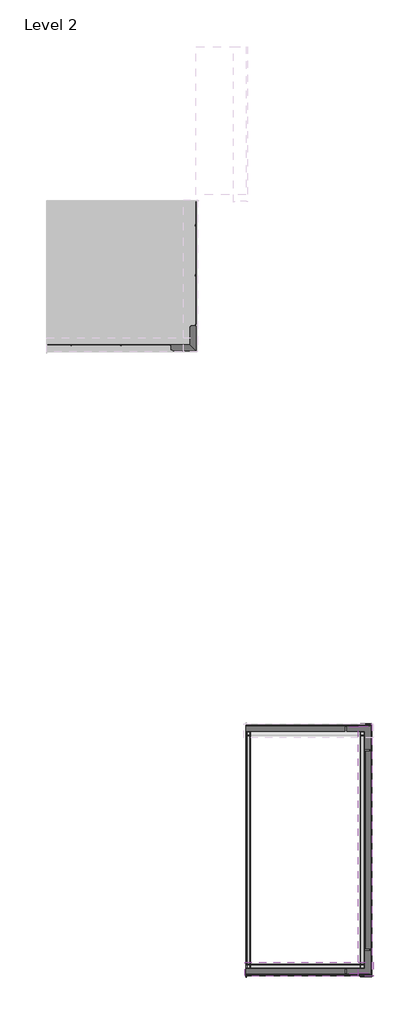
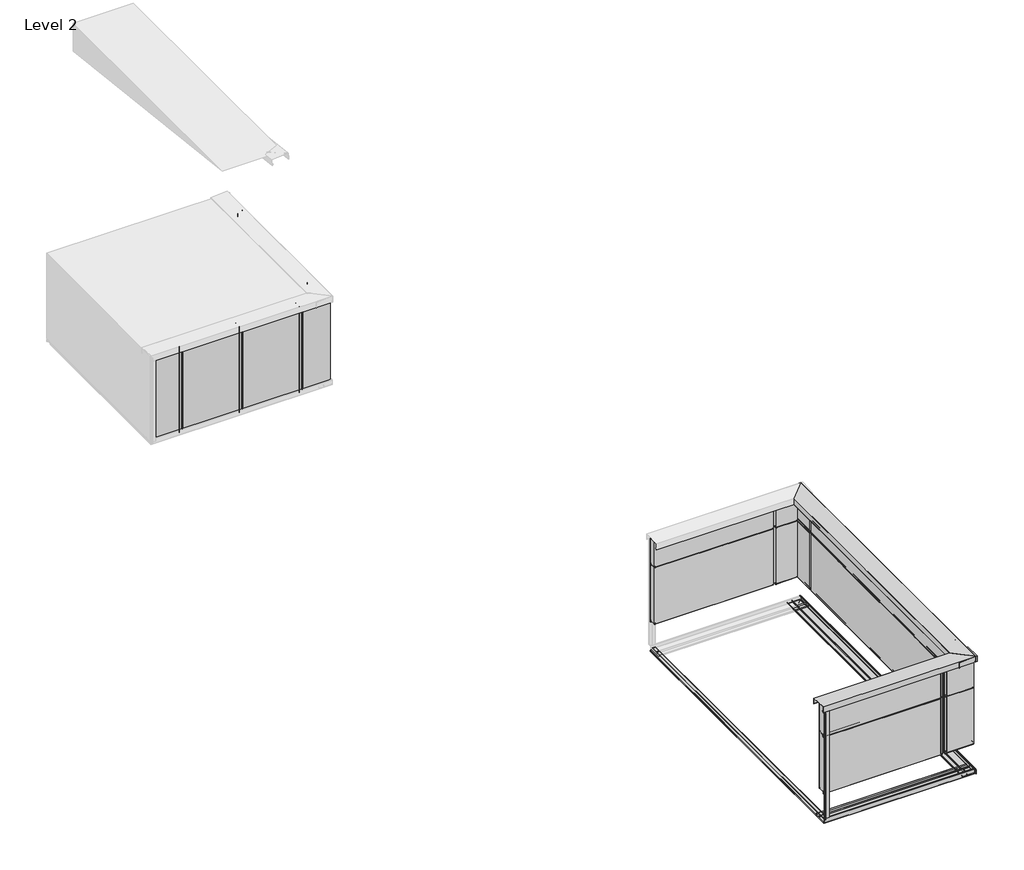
# One storey, part 1 of 2: 26 plates, 8 members, 6 beams.
"""IFC4 building model written with IfcOpenShell, lengths in millimetres."""

from ifc_helpers import new_model, si_unit, frame, origin, place, context, project, spatial, polyline, outline, extrude, faceted_brep, transform, mapped, element, save
from components import internal_corner_91954f82, rectangular_mullion_bb89daf4, rectangular_mullion_bab87d59, plate_120_ral9006_ral9002_e4264d30, plate_120_ral9006_ral9002_5a172faf, plate_120_ral9006_ral9002_df0f32c6, plate_120_ral9006_ral9002_e90abb7c, plate_120_ral9006_ral9002_9ec991b3, plate_120_ral9006_ral9002_0d9f0b08, plate_120_ral9006_ral9002_3dddc61d, plate_120_ral9006_ral9002_cf70b398, plate_120_ral9006_ral9002_8f508d1c, plate_120_ral9006_ral9002_3610f0f2, plate_120_ral9006_ral9002_c86770fb, plate_120_ral9006_ral9002_16159907, plate_120_ral9006_ral9002_e2026118, plate_120_ral9006_ral9002_229d352a, plate_120_ral9006_ral9002_b9891fc8, plate_120_ral9006_ral9002_523d2fcc, plate_120_ral9006_ral9002_a70e4969, tr_empty_empty_7661b975, tr_empty_empty_d66e5eec, tr_empty_empty_b148ba64

model = new_model("IFC4")

# Units and contexts
model_context = context("Model", 3, world=origin())
ifc_project = project(units=[si_unit("LENGTHUNIT", "METRE", prefix="MILLI")], contexts=[model_context])

# Site, building, storey
site = spatial("IfcSite", under=ifc_project)
building = spatial("IfcBuilding", under=site)
storey = spatial("IfcBuildingStorey", under=building, Name="Level 2", Elevation=4000.0)

# Beams
placement = place(None, origin())
element("IfcBeam", 1, ObjectType="TE-H-05_02_Internal corner i_BEAM : Internal corner", at=placement, inside=storey, context=model_context, shape_type="SweptSolid", body=[
    extrude(outline(polyline([(3631.5530174, -3916.9160895), (3631.3459621, -3916.1433489), (3648.3462567, -3911.5881337), (3648.0356738, -3910.4290227), (3629.4, -3915.4224364), (3629.4, -3990.5155057), (3599.4, -3990.5155057), (3599.4, -3991.7155057), (3619.0, -3991.7155057), (3619.0, -3992.5155057), (3598.6, -3992.5155057), (3598.6, -3989.7155057), (3628.6, -3989.7155057), (3628.6, -3914.8085749), (3648.6013592, -3909.4492268), (3649.3260526, -3912.1538191), (3631.5530174, -3916.9160895)])), frame((0.0, -11530.3930873, 0.0), z_axis=(0.0, 1.0, 0.0), x_axis=(0.0, 0.0, 1.0)), (0.0, 0.0, 1.0), 4999.9999988),
    extrude(outline(polyline([(3647.6, -3913.653786), (3633.6146402, -3917.4011518), (3633.407585, -3916.6284112), (3648.4, -3912.6112057), (3648.4, -3963.1324958), (3647.6, -3963.1324958), (3647.6, -3913.653786)])), frame((0.0, -11530.3930873, 0.0), z_axis=(0.0, 1.0, 0.0), x_axis=(0.0, 0.0, 1.0)), (0.0, 0.0, 1.0), 4999.9999988),
])
internal_corner_shape = internal_corner_91954f82(model_context)
element("IfcBeam", 2, ObjectType="TE-H-05_02_Internal corner i_BEAM : Internal corner", at=placement, inside=storey, context=model_context, shape_type="MappedRepresentation", body=[
    mapped(internal_corner_shape, transform((-3994.1155057, -11530.3930879, 4650.0), x_axis=(0.0, 0.0, 1.0), y_axis=(1.0, 0.0, 0.0), z_axis=(0.0, 1.0, 0.0))),
])
element("IfcBeam", 3, ObjectType="TE-H-03_02_Top parapet_BEAM : Top parapet", at=placement, inside=storey, context=model_context, shape_type="Brep", body=[
    faceted_brep([(-1442.4955403, -11535.9982611, 5592.9605122), (-1442.4955403, -11552.9930879, 5575.9656854), (-1442.4955403, -11552.9930879, 5674.5784879), (-1442.4955403, -11277.7930879, 5660.1558671), (-1442.4955403, -11277.7930879, 5561.5011383), (-1442.4955403, -11294.7879147, 5578.4959652), (-1442.4955403, -11295.3536001, 5577.9302797), (-1442.4955403, -11276.9930879, 5559.5697675), (-1442.4955403, -11276.9930879, 5660.9150387), (-1442.4955403, -11553.7930879, 5675.4215121), (-1442.4955403, -11553.7930879, 5574.0343146), (-1442.4955403, -11535.4325756, 5592.3948268), (-4014.9155057, -11535.9982611, 5592.9605122), (-4014.9155057, -11535.4325756, 5592.3948268), (-4014.9155057, -11553.7930879, 5574.0343146), (-4014.9155057, -11553.7930879, 5675.4215121), (-4014.9155057, -11276.9930879, 5660.9150387), (-4014.9155057, -11276.9930879, 5559.5697675), (-4014.9155057, -11295.3536001, 5577.9302797), (-4014.9155057, -11294.7879147, 5578.4959652), (-4014.9155057, -11277.7930879, 5561.5011383), (-4014.9155057, -11277.7930879, 5660.1558671), (-4014.9155057, -11552.9930879, 5674.5784879), (-4014.9155057, -11552.9930879, 5575.9656854)], [[[0, 1, 2, 3, 4, 5, 6, 7, 8, 9, 10, 11]], [[12, 13, 14, 15, 16, 17, 18, 19, 20, 21, 22, 23]], [[1, 0, 12, 23]], [[2, 1, 23, 22]], [[3, 2, 22, 21]], [[4, 3, 21, 20]], [[5, 4, 20, 19]], [[6, 5, 19, 18]], [[7, 6, 18, 17]], [[8, 7, 17, 16]], [[9, 8, 16, 15]], [[10, 9, 15, 14]], [[11, 10, 14, 13]], [[0, 11, 13, 12]]]),
    faceted_brep([(-4014.9155057, -11535.9982611, 5592.9605122), (-4014.9155057, -11535.4325756, 5592.3948268), (-4014.9155057, -11553.7930879, 5574.0343146), (-4014.9155057, -11553.7930879, 5675.4215121), (-4014.9155057, -11276.9930879, 5660.9150387), (-4014.9155057, -11276.9930879, 5559.5697675), (-4014.9155057, -11295.3536001, 5577.9302797), (-4014.9155057, -11294.7879147, 5578.4959652), (-4014.9155057, -11277.7930879, 5561.5011383), (-4014.9155057, -11277.7930879, 5660.1558671), (-4014.9155057, -11552.9930879, 5674.5784879), (-4014.9155057, -11552.9930879, 5575.9656854), (-1489.0760179, -11535.4325756, 5592.3948268), (-1488.5103325, -11535.9982611, 5592.9605122), (-1470.7155057, -11553.7930879, 5574.0343146), (-1470.7155057, -11553.7930879, 5675.4215121), (-1747.5155057, -11276.9930879, 5660.9150387), (-1747.5155057, -11276.9930879, 5559.5697675), (-1729.1549934, -11295.3536001, 5577.9302797), (-1729.7206788, -11294.7879147, 5578.4959652), (-1746.7155057, -11277.7930879, 5561.5011383), (-1746.7155057, -11277.7930879, 5660.1558671), (-1471.5155057, -11552.9930879, 5674.5784879), (-1471.5155057, -11552.9930879, 5575.9656854)], [[[0, 1, 2, 3, 4, 5, 6, 7, 8, 9, 10, 11]], [[12, 1, 0, 13]], [[14, 2, 1, 12]], [[15, 3, 2, 14]], [[16, 4, 3, 15]], [[17, 5, 4, 16]], [[18, 6, 5, 17]], [[19, 7, 6, 18]], [[20, 8, 7, 19]], [[21, 9, 8, 20]], [[22, 10, 9, 21]], [[23, 11, 10, 22]], [[13, 0, 11, 23]], [[13, 23, 22, 21, 20, 19, 18, 17, 16, 15, 14, 12]]]),
])
element("IfcBeam", 4, ObjectType="TE-H-03_02_Top parapet_BEAM : Top parapet", at=placement, inside=storey, context=model_context, shape_type="Brep", body=[
    faceted_brep([(-1488.5103325, -6501.107759, 5592.9605122), (-1471.5155057, -6501.107759, 5575.9656854), (-1471.5155057, -6501.107759, 5674.5784879), (-1746.7155057, -6501.107759, 5660.1558671), (-1746.7155057, -6501.107759, 5561.5011383), (-1729.7206788, -6501.107759, 5578.4959652), (-1729.1549934, -6501.107759, 5577.9302797), (-1747.5155057, -6501.107759, 5559.5697675), (-1747.5155057, -6501.107759, 5660.9150387), (-1470.7155057, -6501.107759, 5675.4215121), (-1470.7155057, -6501.107759, 5574.0343146), (-1489.0760179, -6501.107759, 5592.3948268), (-1488.5103325, -11553.3930879, 5592.9605122), (-1489.0760179, -11553.3930879, 5592.3948268), (-1470.7155057, -11553.3930879, 5574.0343146), (-1470.7155057, -11553.3930879, 5675.4215121), (-1747.5155057, -11553.3930879, 5660.9150387), (-1747.5155057, -11553.3930879, 5559.5697675), (-1729.1549934, -11553.3930879, 5577.9302797), (-1729.7206788, -11553.3930879, 5578.4959652), (-1746.7155057, -11553.3930879, 5561.5011383), (-1746.7155057, -11553.3930879, 5660.1558671), (-1471.5155057, -11553.3930879, 5674.5784879), (-1471.5155057, -11553.3930879, 5575.9656854)], [[[0, 1, 2, 3, 4, 5, 6, 7, 8, 9, 10, 11]], [[12, 13, 14, 15, 16, 17, 18, 19, 20, 21, 22, 23]], [[1, 0, 12, 23]], [[2, 1, 23, 22]], [[3, 2, 22, 21]], [[4, 3, 21, 20]], [[5, 4, 20, 19]], [[6, 5, 19, 18]], [[7, 6, 18, 17]], [[8, 7, 17, 16]], [[9, 8, 16, 15]], [[10, 9, 15, 14]], [[11, 10, 14, 13]], [[0, 11, 13, 12]]]),
    faceted_brep([(-1488.5103325, -6501.107759, 5592.9605122), (-1471.5155057, -6501.107759, 5575.9656854), (-1471.5155057, -6501.107759, 5674.5784879), (-1746.7155057, -6501.107759, 5660.1558671), (-1746.7155057, -6501.107759, 5561.5011383), (-1729.7206788, -6501.107759, 5578.4959652), (-1729.1549934, -6501.107759, 5577.9302797), (-1747.5155057, -6501.107759, 5559.5697675), (-1747.5155057, -6501.107759, 5660.9150387), (-1470.7155057, -6501.107759, 5675.4215121), (-1470.7155057, -6501.107759, 5574.0343146), (-1489.0760179, -6501.107759, 5592.3948268), (-1488.5103325, -11535.9982611, 5592.9605122), (-1471.5155057, -11552.9930879, 5575.9656854), (-1471.5155057, -11552.9930879, 5674.5784879), (-1746.7155057, -11277.7930879, 5660.1558671), (-1746.7155057, -11277.7930879, 5561.5011383), (-1729.7206788, -11294.7879147, 5578.4959652), (-1729.1549934, -11295.3536001, 5577.9302797), (-1747.5155057, -11276.9930879, 5559.5697675), (-1747.5155057, -11276.9930879, 5660.9150387), (-1471.1155057, -11553.3930879, 5675.4005489), (-1470.7155057, -11553.3930879, 5675.4215121), (-1470.7155057, -11553.3930879, 5574.0343146), (-1471.1155057, -11553.3930879, 5574.4343146), (-1489.0760179, -11535.4325756, 5592.3948268)], [[[0, 1, 2, 3, 4, 5, 6, 7, 8, 9, 10, 11]], [[1, 0, 12, 13]], [[2, 1, 13, 14]], [[3, 2, 14, 15]], [[4, 3, 15, 16]], [[5, 4, 16, 17]], [[6, 5, 17, 18]], [[7, 6, 18, 19]], [[8, 7, 19, 20]], [[9, 8, 20, 21, 22]], [[10, 9, 22, 23]], [[11, 10, 23, 24, 25]], [[0, 11, 25, 12]], [[24, 23, 22, 21]], [[24, 21, 20, 19, 18, 17, 16, 15, 14, 13, 12, 25]]]),
    faceted_brep([(-1488.5103325, -6524.789012, 5592.9605122), (-1488.5103325, -11535.9982611, 5592.9605122), (-1471.5155057, -11552.9930879, 5575.9656854), (-1471.5155057, -6507.7941851, 5575.9656854), (-1489.0760179, -6525.3546974, 5592.3948268), (-1489.0760179, -11535.4325756, 5592.3948268), (-1471.5155057, -11552.9930879, 5674.5784879), (-1471.5155057, -6507.7941851, 5674.5784879), (-1746.7155057, -11277.7930879, 5660.1558671), (-1746.7155057, -6782.9941851, 5660.1558671), (-1746.7155057, -11277.7930879, 5561.5011383), (-1746.7155057, -6782.9941851, 5561.5011383), (-1729.7206788, -11294.7879147, 5578.4959652), (-1729.7206788, -6765.9993583, 5578.4959652), (-1729.1549934, -11295.3536001, 5577.9302797), (-1729.1549934, -6765.4336729, 5577.9302797), (-1747.5155057, -11276.9930879, 5559.5697675), (-1747.5155057, -6783.7941851, 5559.5697675), (-1747.5155057, -11276.9930879, 5660.9150387), (-1747.5155057, -6783.7941851, 5660.9150387), (-1471.1155057, -11553.3930879, 5675.4005489), (-1470.7155057, -11553.3930879, 5675.4215121), (-1470.7155057, -6506.9941851, 5675.4215121), (-1471.1155057, -11553.3930879, 5574.4343146), (-1470.7155057, -11553.3930879, 5574.0343146), (-1470.7155057, -6506.9941851, 5574.0343146)], [[[0, 1, 2, 3]], [[4, 5, 1, 0]], [[3, 2, 6, 7]], [[7, 6, 8, 9]], [[9, 8, 10, 11]], [[11, 10, 12, 13]], [[13, 12, 14, 15]], [[15, 14, 16, 17]], [[17, 16, 18, 19]], [[19, 18, 20, 21, 22]], [[23, 24, 21, 20]], [[22, 21, 24, 25]], [[25, 24, 23, 5, 4]], [[23, 20, 18, 16, 14, 12, 10, 8, 6, 2, 1, 5]], [[0, 3, 7, 9, 11, 13, 15, 17, 19, 22, 25, 4]]]),
])
element("IfcBeam", 5, ObjectType="TE-H-12_2_ Soffit i_BEAM : soffit", at=placement, inside=storey, context=model_context, shape_type="Brep", body=[
    faceted_brep([(-3994.1155057, -11548.3574148, 3687.5217497), (-3994.1155057, -11531.3571203, 3692.0769649), (-3994.1155057, -11531.6677031, 3693.2360759), (-3994.1155057, -11550.3033769, 3688.2426622), (-3994.1155057, -11550.3033769, 3614.5152784), (-3994.1155057, -11533.3085501, 3631.5101052), (-3994.1155057, -11532.7428647, 3630.9444198), (-3994.1155057, -11551.1033769, 3612.5839075), (-3994.1155057, -11551.1033769, 3688.8565238), (-3994.1155057, -11531.1020177, 3694.2158718), (-3994.1155057, -11530.3773244, 3691.5112795), (-3994.1155057, -11548.1503596, 3686.7490091), (-1494.1155057, -11548.3574148, 3687.5217497), (-1494.1155057, -11548.1503596, 3686.7490091), (-1494.1155057, -11530.3773244, 3691.5112795), (-1494.1155057, -11531.1020177, 3694.2158718), (-1494.1155057, -11551.1033769, 3688.8565238), (-1494.1155057, -11551.1033769, 3612.5839075), (-1494.1155057, -11532.7428647, 3630.9444198), (-1494.1155057, -11533.3085501, 3631.5101052), (-1494.1155057, -11550.3033769, 3614.5152784), (-1494.1155057, -11550.3033769, 3688.2426622), (-1494.1155057, -11531.6677031, 3693.2360759), (-1494.1155057, -11531.3571203, 3692.0769649)], [[[0, 1, 2, 3, 4, 5, 6, 7, 8, 9, 10, 11]], [[12, 13, 14, 15, 16, 17, 18, 19, 20, 21, 22, 23]], [[1, 0, 12, 23]], [[2, 1, 23, 22]], [[3, 2, 22, 21]], [[4, 3, 21, 20]], [[5, 4, 20, 19]], [[6, 5, 19, 18]], [[7, 6, 18, 17]], [[8, 7, 17, 16]], [[9, 8, 16, 15]], [[10, 9, 15, 14]], [[11, 10, 14, 13]], [[0, 11, 13, 12]]]),
    faceted_brep([(-3994.1155057, -11548.404939, 3618.4538591), (-3994.1155057, -11534.1456461, 3632.713152), (-3994.1155057, -11404.3799606, 3632.713152), (-3994.1155057, -11404.3799606, 3657.713152), (-3994.1155057, -11401.5799606, 3657.713152), (-3994.1155057, -11401.5799606, 3629.713152), (-3994.1155057, -11327.2868914, 3629.713152), (-3994.1155057, -11322.2934777, 3648.3488258), (-3994.1155057, -11323.4525887, 3648.6594087), (-3994.1155057, -11328.0078039, 3631.6591141), (-3994.1155057, -11328.7805445, 3631.8661694), (-3994.1155057, -11324.0182741, 3649.6392046), (-3994.1155057, -11321.3136818, 3648.9145113), (-3994.1155057, -11326.6730298, 3628.913152), (-3994.1155057, -11402.3799606, 3628.913152), (-3994.1155057, -11402.3799606, 3656.913152), (-3994.1155057, -11403.5799606, 3656.913152), (-3994.1155057, -11403.5799606, 3631.913152), (-3994.1155057, -11533.8142752, 3631.913152), (-3994.1155057, -11547.8392535, 3617.8881737), (-1494.1155057, -11548.404939, 3618.4538591), (-1494.1155057, -11547.8392535, 3617.8881737), (-1494.1155057, -11533.8142752, 3631.913152), (-1494.1155057, -11403.5799606, 3631.913152), (-1494.1155057, -11403.5799606, 3656.913152), (-1494.1155057, -11402.3799606, 3656.913152), (-1494.1155057, -11402.3799606, 3628.913152), (-1494.1155057, -11326.6730298, 3628.913152), (-1494.1155057, -11321.3136818, 3648.9145113), (-1494.1155057, -11324.0182741, 3649.6392046), (-1494.1155057, -11328.7805445, 3631.8661694), (-1494.1155057, -11328.0078039, 3631.6591141), (-1494.1155057, -11323.4525887, 3648.6594087), (-1494.1155057, -11322.2934777, 3648.3488258), (-1494.1155057, -11327.2868914, 3629.713152), (-1494.1155057, -11401.5799606, 3629.713152), (-1494.1155057, -11401.5799606, 3657.713152), (-1494.1155057, -11404.3799606, 3657.713152), (-1494.1155057, -11404.3799606, 3632.713152), (-1494.1155057, -11534.1456461, 3632.713152)], [[[0, 1, 2, 3, 4, 5, 6, 7, 8, 9, 10, 11, 12, 13, 14, 15, 16, 17, 18, 19]], [[20, 21, 22, 23, 24, 25, 26, 27, 28, 29, 30, 31, 32, 33, 34, 35, 36, 37, 38, 39]], [[1, 0, 20, 39]], [[2, 1, 39, 38]], [[3, 2, 38, 37]], [[4, 3, 37, 36]], [[5, 4, 36, 35]], [[6, 5, 35, 34]], [[7, 6, 34, 33]], [[8, 7, 33, 32]], [[9, 8, 32, 31]], [[10, 9, 31, 30]], [[11, 10, 30, 29]], [[12, 11, 29, 28]], [[13, 12, 28, 27]], [[14, 13, 27, 26]], [[15, 14, 26, 25]], [[16, 15, 25, 24]], [[17, 16, 24, 23]], [[18, 17, 23, 22]], [[19, 18, 22, 21]], [[0, 19, 21, 20]]]),
    faceted_brep([(-3994.1155057, -11548.3574148, 3687.5217497), (-3994.1155057, -11531.3571203, 3692.0769649), (-3994.1155057, -11531.6677031, 3693.2360759), (-3994.1155057, -11550.3033769, 3688.2426622), (-3994.1155057, -11550.3033769, 3614.5152784), (-3994.1155057, -11533.3085501, 3631.5101052), (-3994.1155057, -11532.7428647, 3630.9444198), (-3994.1155057, -11551.1033769, 3612.5839075), (-3994.1155057, -11551.1033769, 3688.8565238), (-3994.1155057, -11531.1020177, 3694.2158718), (-3994.1155057, -11530.3773244, 3691.5112795), (-3994.1155057, -11548.1503596, 3686.7490091), (-1494.1155057, -11548.3574148, 3687.5217497), (-1494.1155057, -11531.3571203, 3692.0769649), (-1494.1155057, -11531.6677031, 3693.2360759), (-1494.1155057, -11550.3033769, 3688.2426622), (-1494.1155057, -11550.3033769, 3614.5152784), (-1494.1155057, -11533.3085501, 3631.5101052), (-1494.1155057, -11532.7428647, 3630.9444198), (-1494.1155057, -11551.1033769, 3612.5839075), (-1494.1155057, -11551.1033769, 3688.8565238), (-1494.1155057, -11531.1020177, 3694.2158718), (-1494.1155057, -11530.3773244, 3691.5112795), (-1494.1155057, -11548.1503596, 3686.7490091)], [[[0, 1, 2, 3, 4, 5, 6, 7, 8, 9, 10, 11]], [[1, 0, 12, 13]], [[2, 1, 13, 14]], [[3, 2, 14, 15]], [[4, 3, 15, 16]], [[5, 4, 16, 17]], [[6, 5, 17, 18]], [[7, 6, 18, 19]], [[8, 7, 19, 20]], [[9, 8, 20, 21]], [[10, 9, 21, 22]], [[11, 10, 22, 23]], [[0, 11, 23, 12]], [[12, 23, 22, 21, 20, 19, 18, 17, 16, 15, 14, 13]]]),
    faceted_brep([(-3994.1155057, -11548.404939, 3618.4538591), (-3994.1155057, -11534.1456461, 3632.713152), (-3994.1155057, -11404.3799606, 3632.713152), (-3994.1155057, -11404.3799606, 3657.713152), (-3994.1155057, -11401.5799606, 3657.713152), (-3994.1155057, -11401.5799606, 3629.713152), (-3994.1155057, -11327.2868914, 3629.713152), (-3994.1155057, -11322.2934777, 3648.3488258), (-3994.1155057, -11323.4525887, 3648.6594087), (-3994.1155057, -11328.0078039, 3631.6591141), (-3994.1155057, -11328.7805445, 3631.8661694), (-3994.1155057, -11324.0182741, 3649.6392046), (-3994.1155057, -11321.3136818, 3648.9145113), (-3994.1155057, -11326.6730298, 3628.913152), (-3994.1155057, -11402.3799606, 3628.913152), (-3994.1155057, -11402.3799606, 3656.913152), (-3994.1155057, -11403.5799606, 3656.913152), (-3994.1155057, -11403.5799606, 3631.913152), (-3994.1155057, -11533.8142752, 3631.913152), (-3994.1155057, -11547.8392535, 3617.8881737), (-1494.1155057, -11548.404939, 3618.4538591), (-1494.1155057, -11534.1456461, 3632.713152), (-1494.1155057, -11530.3930879, 3632.713152), (-1620.1286329, -11404.3799606, 3632.713152), (-1620.1286329, -11404.3799606, 3657.713152), (-1622.9286329, -11401.5799606, 3657.713152), (-1622.9286329, -11401.5799606, 3629.713152), (-1697.2217021, -11327.2868914, 3629.713152), (-1702.2151158, -11322.2934777, 3648.3488258), (-1701.0560049, -11323.4525887, 3648.6594087), (-1696.5007897, -11328.0078039, 3631.6591141), (-1695.728049, -11328.7805445, 3631.8661694), (-1700.4903194, -11324.0182741, 3649.6392046), (-1703.1949117, -11321.3136818, 3648.9145113), (-1697.8355637, -11326.6730298, 3628.913152), (-1622.1286329, -11402.3799606, 3628.913152), (-1622.1286329, -11402.3799606, 3656.913152), (-1620.9286329, -11403.5799606, 3656.913152), (-1620.9286329, -11403.5799606, 3631.913152), (-1494.1155057, -11530.3930879, 3631.913152), (-1494.1155057, -11533.8142752, 3631.913152), (-1494.1155057, -11547.8392535, 3617.8881737)], [[[0, 1, 2, 3, 4, 5, 6, 7, 8, 9, 10, 11, 12, 13, 14, 15, 16, 17, 18, 19]], [[1, 0, 20, 21]], [[2, 1, 21, 22, 23]], [[3, 2, 23, 24]], [[4, 3, 24, 25]], [[5, 4, 25, 26]], [[6, 5, 26, 27]], [[7, 6, 27, 28]], [[8, 7, 28, 29]], [[9, 8, 29, 30]], [[10, 9, 30, 31]], [[11, 10, 31, 32]], [[12, 11, 32, 33]], [[13, 12, 33, 34]], [[14, 13, 34, 35]], [[15, 14, 35, 36]], [[16, 15, 36, 37]], [[17, 16, 37, 38]], [[18, 17, 38, 39, 40]], [[19, 18, 40, 41]], [[0, 19, 41, 20]], [[20, 41, 40, 39, 22, 21]], [[22, 39, 38, 37, 36, 35, 34, 33, 32, 31, 30, 29, 28, 27, 26, 25, 24, 23]]]),
])
element("IfcBeam", 6, ObjectType="TE-H-12_2_ Soffit i_BEAM : soffit", at=placement, inside=storey, context=model_context, shape_type="Brep", body=[
    faceted_brep([(-1476.1511787, -11571.813666, 3687.5217497), (-1493.1514732, -11571.813666, 3692.0769649), (-1492.8408904, -11571.813666, 3693.2360759), (-1474.2052166, -11571.813666, 3688.2426622), (-1474.2052166, -11571.813666, 3614.5152784), (-1491.2000434, -11571.813666, 3631.5101052), (-1491.7657288, -11571.813666, 3630.9444198), (-1473.4052166, -11571.813666, 3612.5839075), (-1473.4052166, -11571.813666, 3688.8565238), (-1493.4065758, -11571.813666, 3694.2158718), (-1494.1312691, -11571.813666, 3691.5112795), (-1476.3582339, -11571.813666, 3686.7490091), (-1476.1511787, -6506.9930879, 3687.5217497), (-1476.3582339, -6506.9930879, 3686.7490091), (-1494.1312691, -6506.9930879, 3691.5112795), (-1493.4065758, -6506.9930879, 3694.2158718), (-1473.4052166, -6506.9930879, 3688.8565238), (-1473.4052166, -6506.9930879, 3612.5839075), (-1491.7657288, -6506.9930879, 3630.9444198), (-1491.2000434, -6506.9930879, 3631.5101052), (-1474.2052166, -6506.9930879, 3614.5152784), (-1474.2052166, -6506.9930879, 3688.2426622), (-1492.8408904, -6506.9930879, 3693.2360759), (-1493.1514732, -6506.9930879, 3692.0769649)], [[[0, 1, 2, 3, 4, 5, 6, 7, 8, 9, 10, 11]], [[12, 13, 14, 15, 16, 17, 18, 19, 20, 21, 22, 23]], [[1, 0, 12, 23]], [[2, 1, 23, 22]], [[3, 2, 22, 21]], [[4, 3, 21, 20]], [[5, 4, 20, 19]], [[6, 5, 19, 18]], [[7, 6, 18, 17]], [[8, 7, 17, 16]], [[9, 8, 16, 15]], [[10, 9, 15, 14]], [[11, 10, 14, 13]], [[0, 11, 13, 12]]]),
    faceted_brep([(-1476.1036546, -11571.813666, 3618.4538591), (-1490.3629475, -11571.813666, 3632.713152), (-1620.1286329, -11571.813666, 3632.713152), (-1620.1286329, -11571.813666, 3657.713152), (-1622.9286329, -11571.813666, 3657.713152), (-1622.9286329, -11571.813666, 3629.713152), (-1697.2217021, -11571.813666, 3629.713152), (-1702.2151158, -11571.813666, 3648.3488258), (-1701.0560049, -11571.813666, 3648.6594087), (-1696.5007897, -11571.813666, 3631.6591141), (-1695.728049, -11571.813666, 3631.8661694), (-1700.4903194, -11571.813666, 3649.6392046), (-1703.1949117, -11571.813666, 3648.9145113), (-1697.8355637, -11571.813666, 3628.913152), (-1622.1286329, -11571.813666, 3628.913152), (-1622.1286329, -11571.813666, 3656.913152), (-1620.9286329, -11571.813666, 3656.913152), (-1620.9286329, -11571.813666, 3631.913152), (-1490.6943183, -11571.813666, 3631.913152), (-1476.66934, -11571.813666, 3617.8881737), (-1476.1036546, -6506.9930879, 3618.4538591), (-1476.66934, -6506.9930879, 3617.8881737), (-1490.6943183, -6506.9930879, 3631.913152), (-1620.9286329, -6506.9930879, 3631.913152), (-1620.9286329, -6506.9930879, 3656.913152), (-1622.1286329, -6506.9930879, 3656.913152), (-1622.1286329, -6506.9930879, 3628.913152), (-1697.8355637, -6506.9930879, 3628.913152), (-1703.1949117, -6506.9930879, 3648.9145113), (-1700.4903194, -6506.9930879, 3649.6392046), (-1695.728049, -6506.9930879, 3631.8661694), (-1696.5007897, -6506.9930879, 3631.6591141), (-1701.0560049, -6506.9930879, 3648.6594087), (-1702.2151158, -6506.9930879, 3648.3488258), (-1697.2217021, -6506.9930879, 3629.713152), (-1622.9286329, -6506.9930879, 3629.713152), (-1622.9286329, -6506.9930879, 3657.713152), (-1620.1286329, -6506.9930879, 3657.713152), (-1620.1286329, -6506.9930879, 3632.713152), (-1490.3629475, -6506.9930879, 3632.713152)], [[[0, 1, 2, 3, 4, 5, 6, 7, 8, 9, 10, 11, 12, 13, 14, 15, 16, 17, 18, 19]], [[20, 21, 22, 23, 24, 25, 26, 27, 28, 29, 30, 31, 32, 33, 34, 35, 36, 37, 38, 39]], [[1, 0, 20, 39]], [[2, 1, 39, 38]], [[3, 2, 38, 37]], [[4, 3, 37, 36]], [[5, 4, 36, 35]], [[6, 5, 35, 34]], [[7, 6, 34, 33]], [[8, 7, 33, 32]], [[9, 8, 32, 31]], [[10, 9, 31, 30]], [[11, 10, 30, 29]], [[12, 11, 29, 28]], [[13, 12, 28, 27]], [[14, 13, 27, 26]], [[15, 14, 26, 25]], [[16, 15, 25, 24]], [[17, 16, 24, 23]], [[18, 17, 23, 22]], [[19, 18, 22, 21]], [[0, 19, 21, 20]]]),
    faceted_brep([(-1476.1511787, -6506.9930879, 3687.5217497), (-1476.3582339, -6506.9930879, 3686.7490091), (-1494.1312691, -6506.9930879, 3691.5112795), (-1493.4065758, -6506.9930879, 3694.2158718), (-1473.4052166, -6506.9930879, 3688.8565238), (-1473.4052166, -6506.9930879, 3612.5839075), (-1491.7657288, -6506.9930879, 3630.9444198), (-1491.2000434, -6506.9930879, 3631.5101052), (-1474.2052166, -6506.9930879, 3614.5152784), (-1474.2052166, -6506.9930879, 3688.2426622), (-1492.8408904, -6506.9930879, 3693.2360759), (-1493.1514732, -6506.9930879, 3692.0769649), (-1476.3582339, -11548.1503596, 3686.7490091), (-1476.1511787, -11548.3574148, 3687.5217497), (-1494.1312691, -11530.3773244, 3691.5112795), (-1493.4065758, -11531.1020177, 3694.2158718), (-1473.4052166, -11551.1033769, 3688.8565238), (-1473.4052166, -11551.1033769, 3612.5839075), (-1491.7657288, -11532.7428647, 3630.9444198), (-1491.2000434, -11533.3085501, 3631.5101052), (-1474.2052166, -11550.3033769, 3614.5152784), (-1474.2052166, -11550.3033769, 3688.2426622), (-1492.8408904, -11531.6677031, 3693.2360759), (-1493.1514732, -11531.3571203, 3692.0769649)], [[[0, 1, 2, 3, 4, 5, 6, 7, 8, 9, 10, 11]], [[12, 1, 0, 13]], [[14, 2, 1, 12]], [[15, 3, 2, 14]], [[16, 4, 3, 15]], [[17, 5, 4, 16]], [[18, 6, 5, 17]], [[19, 7, 6, 18]], [[20, 8, 7, 19]], [[21, 9, 8, 20]], [[22, 10, 9, 21]], [[23, 11, 10, 22]], [[13, 0, 11, 23]], [[13, 23, 22, 21, 20, 19, 18, 17, 16, 15, 14, 12]]]),
    faceted_brep([(-1476.1036546, -6506.9930879, 3618.4538591), (-1476.66934, -6506.9930879, 3617.8881737), (-1490.6943183, -6506.9930879, 3631.913152), (-1620.9286329, -6506.9930879, 3631.913152), (-1620.9286329, -6506.9930879, 3656.913152), (-1622.1286329, -6506.9930879, 3656.913152), (-1622.1286329, -6506.9930879, 3628.913152), (-1697.8355637, -6506.9930879, 3628.913152), (-1703.1949117, -6506.9930879, 3648.9145113), (-1700.4903194, -6506.9930879, 3649.6392046), (-1695.728049, -6506.9930879, 3631.8661694), (-1696.5007897, -6506.9930879, 3631.6591141), (-1701.0560049, -6506.9930879, 3648.6594087), (-1702.2151158, -6506.9930879, 3648.3488258), (-1697.2217021, -6506.9930879, 3629.713152), (-1622.9286329, -6506.9930879, 3629.713152), (-1622.9286329, -6506.9930879, 3657.713152), (-1620.1286329, -6506.9930879, 3657.713152), (-1620.1286329, -6506.9930879, 3632.713152), (-1490.3629475, -6506.9930879, 3632.713152), (-1476.66934, -11547.8392535, 3617.8881737), (-1476.1036546, -11548.404939, 3618.4538591), (-1490.6943183, -11533.8142752, 3631.913152), (-1620.9286329, -11403.5799606, 3631.913152), (-1620.9286329, -11403.5799606, 3656.913152), (-1622.1286329, -11402.3799606, 3656.913152), (-1622.1286329, -11402.3799606, 3628.913152), (-1697.8355637, -11326.6730298, 3628.913152), (-1703.1949117, -11321.3136818, 3648.9145113), (-1700.4903194, -11324.0182741, 3649.6392046), (-1695.728049, -11328.7805445, 3631.8661694), (-1696.5007897, -11328.0078039, 3631.6591141), (-1701.0560049, -11323.4525887, 3648.6594087), (-1702.2151158, -11322.2934777, 3648.3488258), (-1697.2217021, -11327.2868914, 3629.713152), (-1622.9286329, -11401.5799606, 3629.713152), (-1622.9286329, -11401.5799606, 3657.713152), (-1620.1286329, -11404.3799606, 3657.713152), (-1620.1286329, -11404.3799606, 3632.713152), (-1490.3629475, -11534.1456461, 3632.713152)], [[[0, 1, 2, 3, 4, 5, 6, 7, 8, 9, 10, 11, 12, 13, 14, 15, 16, 17, 18, 19]], [[20, 1, 0, 21]], [[22, 2, 1, 20]], [[23, 3, 2, 22]], [[24, 4, 3, 23]], [[25, 5, 4, 24]], [[26, 6, 5, 25]], [[27, 7, 6, 26]], [[28, 8, 7, 27]], [[29, 9, 8, 28]], [[30, 10, 9, 29]], [[31, 11, 10, 30]], [[32, 12, 11, 31]], [[33, 13, 12, 32]], [[34, 14, 13, 33]], [[35, 15, 14, 34]], [[36, 16, 15, 35]], [[37, 17, 16, 36]], [[38, 18, 17, 37]], [[39, 19, 18, 38]], [[21, 0, 19, 39]], [[21, 39, 38, 37, 36, 35, 34, 33, 32, 31, 30, 29, 28, 27, 26, 25, 24, 23, 22, 20]]]),
    faceted_brep([(-1476.3582339, -11548.1503596, 3686.7490091), (-1476.3582339, -6512.6369134, 3686.7490091), (-1476.1511787, -6512.4298582, 3687.5217497), (-1476.1511787, -11548.3574148, 3687.5217497), (-1494.1312691, -11530.3773244, 3691.5112795), (-1494.1312691, -6530.4099486, 3691.5112795), (-1493.4065758, -11531.1020177, 3694.2158718), (-1493.4065758, -6529.6852553, 3694.2158718), (-1473.4052166, -11551.1033769, 3688.8565238), (-1473.4052166, -6509.6838961, 3688.8565238), (-1473.4052166, -11551.1033769, 3612.5839075), (-1473.4052166, -6509.6838961, 3612.5839075), (-1491.7657288, -11532.7428647, 3630.9444198), (-1491.7657288, -6528.0444083, 3630.9444198), (-1491.2000434, -11533.3085501, 3631.5101052), (-1491.2000434, -6527.4787229, 3631.5101052), (-1474.2052166, -11550.3033769, 3614.5152784), (-1474.2052166, -6510.4838961, 3614.5152784), (-1474.2052166, -11550.3033769, 3688.2426622), (-1474.2052166, -6510.4838961, 3688.2426622), (-1492.8408904, -11531.6677031, 3693.2360759), (-1492.8408904, -6529.1195699, 3693.2360759), (-1493.1514732, -11531.3571203, 3692.0769649), (-1493.1514732, -6529.4301527, 3692.0769649)], [[[0, 1, 2, 3]], [[4, 5, 1, 0]], [[6, 7, 5, 4]], [[8, 9, 7, 6]], [[10, 11, 9, 8]], [[12, 13, 11, 10]], [[14, 15, 13, 12]], [[16, 17, 15, 14]], [[18, 19, 17, 16]], [[20, 21, 19, 18]], [[22, 23, 21, 20]], [[3, 2, 23, 22]], [[3, 22, 20, 18, 16, 14, 12, 10, 8, 6, 4, 0]], [[2, 1, 5, 7, 9, 11, 13, 15, 17, 19, 21, 23]]]),
    faceted_brep([(-1476.66934, -11547.8392535, 3617.8881737), (-1476.66934, -6512.9480195, 3617.8881737), (-1476.1036546, -6512.382334, 3618.4538591), (-1476.1036546, -11548.404939, 3618.4538591), (-1490.6943183, -11533.8142752, 3631.913152), (-1490.6943183, -6526.9729978, 3631.913152), (-1620.9286329, -11403.5799606, 3631.913152), (-1620.9286329, -6657.2073124, 3631.913152), (-1490.3629475, -11534.1456461, 3632.713152), (-1490.3629475, -6526.641627, 3632.713152), (-1620.1286329, -6656.4073124, 3632.713152), (-1620.1286329, -11404.3799606, 3632.713152), (-1620.9286329, -11403.5799606, 3656.913152), (-1620.9286329, -6657.2073124, 3656.913152), (-1622.1286329, -11402.3799606, 3656.913152), (-1622.1286329, -6658.4073124, 3656.913152), (-1622.1286329, -11402.3799606, 3628.913152), (-1622.1286329, -6658.4073124, 3628.913152), (-1697.8355637, -11326.6730298, 3628.913152), (-1697.8355637, -6734.1142432, 3628.913152), (-1703.1949117, -11321.3136818, 3648.9145113), (-1703.1949117, -6739.4735912, 3648.9145113), (-1700.4903194, -11324.0182741, 3649.6392046), (-1700.4903194, -6736.7689989, 3649.6392046), (-1695.728049, -11328.7805445, 3631.8661694), (-1695.728049, -6732.0067285, 3631.8661694), (-1696.5007897, -11328.0078039, 3631.6591141), (-1696.5007897, -6732.7794691, 3631.6591141), (-1701.0560049, -11323.4525887, 3648.6594087), (-1701.0560049, -6737.3346843, 3648.6594087), (-1702.2151158, -11322.2934777, 3648.3488258), (-1702.2151158, -6738.4937953, 3648.3488258), (-1697.2217021, -11327.2868914, 3629.713152), (-1697.2217021, -6733.5003816, 3629.713152), (-1622.9286329, -11401.5799606, 3629.713152), (-1622.9286329, -6659.2073124, 3629.713152), (-1622.9286329, -11401.5799606, 3657.713152), (-1622.9286329, -6659.2073124, 3657.713152), (-1620.1286329, -11404.3799606, 3657.713152), (-1620.1286329, -6656.4073124, 3657.713152)], [[[0, 1, 2, 3]], [[4, 5, 1, 0]], [[6, 7, 5, 4]], [[8, 9, 10, 11]], [[3, 2, 9, 8]], [[12, 13, 7, 6]], [[14, 15, 13, 12]], [[16, 17, 15, 14]], [[18, 19, 17, 16]], [[20, 21, 19, 18]], [[22, 23, 21, 20]], [[24, 25, 23, 22]], [[26, 27, 25, 24]], [[28, 29, 27, 26]], [[30, 31, 29, 28]], [[32, 33, 31, 30]], [[34, 35, 33, 32]], [[36, 37, 35, 34]], [[38, 39, 37, 36]], [[11, 10, 39, 38]], [[3, 8, 11, 38, 36, 34, 32, 30, 28, 26, 24, 22, 20, 18, 16, 14, 12, 6, 4, 0]], [[2, 1, 5, 7, 13, 15, 17, 19, 21, 23, 25, 27, 29, 31, 33, 35, 37, 39, 10, 9]]]),
])

# Members
rectangular_mullion_shape = rectangular_mullion_bb89daf4(model_context)
element("IfcMember", 7, ObjectType="Rectangular Mullion : TE-H-01_03_Joint HF102", at=placement, inside=storey, context=model_context, shape_type="MappedRepresentation", body=[
    mapped(rectangular_mullion_shape, transform((-1494.1155057, -11030.3930879, 5650.0), x_axis=(0.0, -1.0, 0.0), y_axis=(1.0, 0.0, 0.0), z_axis=(0.0, 0.0, 1.0))),
])
element("IfcMember", 8, ObjectType="Rectangular Mullion : TE-H-01_03_Joint HF102", at=placement, inside=storey, context=model_context, shape_type="MappedRepresentation", body=[
    mapped(rectangular_mullion_shape, transform((-1494.1155057, -7030.3930879, 5650.0), x_axis=(0.0, -1.0, 0.0), y_axis=(1.0, 0.0, 0.0), z_axis=(0.0, 0.0, 1.0))),
])
element("IfcMember", 9, ObjectType="Rectangular Mullion : TE-H-01_03_Joint HF102", at=placement, inside=storey, context=model_context, shape_type="MappedRepresentation", body=[
    mapped(rectangular_mullion_shape, transform((-1994.1155057, -11530.3930879, 5650.0), x_axis=(-1.0, 0.0, 0.0), y_axis=(0.0, -1.0, 0.0), z_axis=(0.0, 0.0, 1.0))),
])
element("IfcMember", 10, ObjectType="Rectangular Mullion : TE-H-01_03_Joint HF102", at=placement, inside=storey, context=model_context, shape_type="MappedRepresentation", body=[
    mapped(rectangular_mullion_shape, transform((-1994.1155057, -6530.3930879, 5650.0), x_axis=(1.0, 0.0, 0.0), y_axis=(0.0, 1.0, 0.0), z_axis=(0.0, 0.0, 1.0))),
])
rectangular_mullion_2_shape = rectangular_mullion_bab87d59(model_context)
element("IfcMember", 11, ObjectType="Rectangular Mullion : TE-H-01_03_Joint HF102", at=placement, inside=storey, context=model_context, shape_type="MappedRepresentation", body=[
    mapped(rectangular_mullion_2_shape, transform((-1494.1155057, -11030.3930879, 5150.0), x_axis=(0.0, -1.0, 0.0), y_axis=(1.0, 0.0, 0.0), z_axis=(0.0, 0.0, 1.0))),
])
element("IfcMember", 12, ObjectType="Rectangular Mullion : TE-H-01_03_Joint HF102", at=placement, inside=storey, context=model_context, shape_type="MappedRepresentation", body=[
    mapped(rectangular_mullion_2_shape, transform((-1494.1155057, -7030.3930879, 5150.0), x_axis=(0.0, -1.0, 0.0), y_axis=(1.0, 0.0, 0.0), z_axis=(0.0, 0.0, 1.0))),
])
element("IfcMember", 13, ObjectType="Rectangular Mullion : TE-H-01_03_Joint HF102", at=placement, inside=storey, context=model_context, shape_type="MappedRepresentation", body=[
    mapped(rectangular_mullion_2_shape, transform((-1994.1155057, -11530.3930879, 5150.0), x_axis=(-1.0, 0.0, 0.0), y_axis=(0.0, -1.0, 0.0), z_axis=(0.0, 0.0, 1.0))),
])
element("IfcMember", 14, ObjectType="Rectangular Mullion : TE-H-01_03_Joint HF102", at=placement, inside=storey, context=model_context, shape_type="MappedRepresentation", body=[
    mapped(rectangular_mullion_2_shape, transform((-1994.1155057, -6530.3930879, 5150.0), x_axis=(1.0, 0.0, 0.0), y_axis=(0.0, 1.0, 0.0), z_axis=(0.0, 0.0, 1.0))),
])

# Plates
plate_120_ral9006_ral9002_shape = plate_120_ral9006_ral9002_e4264d30(model_context)
element("IfcPlate", 15, ObjectType="TR_C_H_FHL_Panel : 120/RAL9006/RAL9002", at=placement, inside=storey, context=model_context, shape_type="MappedRepresentation", body=[
    mapped(plate_120_ral9006_ral9002_shape, transform((-5494.1155057, 2469.6069121, 4150.0), x_axis=(0.0, 1.0, 0.0), y_axis=(0.0, 0.0, -1.0), z_axis=(-1.0, 0.0, 0.0))),
])
element("IfcPlate", 16, ObjectType="TR_C_H_FHL_Panel : 120/RAL9006/RAL9002", at=placement, inside=storey, context=model_context, shape_type="MappedRepresentation", body=[
    mapped(plate_120_ral9006_ral9002_shape, transform((-6494.1155057, 2469.6069121, 4150.0), x_axis=(0.0, 1.0, 0.0), y_axis=(0.0, 0.0, -1.0), z_axis=(-1.0, 0.0, 0.0))),
])
plate_120_ral9006_ral9002_2_shape = plate_120_ral9006_ral9002_5a172faf(model_context)
element("IfcPlate", 17, ObjectType="TR_C_H_FHL_Panel : 120/RAL9006/RAL9002", at=placement, inside=storey, context=model_context, shape_type="MappedRepresentation", body=[
    mapped(plate_120_ral9006_ral9002_2_shape, transform((-1494.1155057, -9030.3930879, 4150.0), x_axis=(0.0, -1.0, 0.0), y_axis=(1.0, 0.0, 0.0), z_axis=(0.0, 0.0, 1.0))),
])
plate_120_ral9006_ral9002_3_shape = plate_120_ral9006_ral9002_df0f32c6(model_context)
element("IfcPlate", 18, ObjectType="TR_C_H_FHL_Panel : 120/RAL9006/RAL9002", at=placement, inside=storey, context=model_context, shape_type="MappedRepresentation", body=[
    mapped(plate_120_ral9006_ral9002_3_shape, transform((-3004.1155057, -6530.3930879, 4150.0), x_axis=(1.0, 0.0, 0.0), y_axis=(0.0, 1.0, 0.0), z_axis=(0.0, 0.0, 1.0))),
])
element("IfcPlate", 19, ObjectType="TR_C_H_FHL_Panel : 120/RAL9006/RAL9002", at=placement, inside=storey, context=model_context, shape_type="MappedRepresentation", body=[
    mapped(plate_120_ral9006_ral9002_3_shape, transform((-3004.1155057, -11530.3930879, 4150.0), x_axis=(-1.0, 0.0, 0.0), y_axis=(0.0, -1.0, 0.0), z_axis=(0.0, 0.0, 1.0))),
])
plate_120_ral9006_ral9002_4_shape = plate_120_ral9006_ral9002_e90abb7c(model_context)
element("IfcPlate", 20, ObjectType="TR_C_H_FHL_Panel_cut_GROOVE : 120/RAL9006/RAL9002", at=placement, inside=storey, context=model_context, shape_type="MappedRepresentation", body=[
    mapped(plate_120_ral9006_ral9002_4_shape, transform((-7494.1155057, 2469.6069121, 4150.0), x_axis=(0.0, 1.0, 0.0), y_axis=(0.0, 0.0, -1.0), z_axis=(-1.0, 0.0, 0.0))),
])
plate_120_ral9006_ral9002_5_shape = plate_120_ral9006_ral9002_9ec991b3(model_context)
element("IfcPlate", 21, ObjectType="TR_C_H_FHL_Panel_cut_GROOVE : 120/RAL9006/RAL9002", at=placement, inside=storey, context=model_context, shape_type="MappedRepresentation", body=[
    mapped(plate_120_ral9006_ral9002_5_shape, transform((-3004.1155057, -6530.3930879, 5150.0), x_axis=(1.0, 0.0, 0.0), y_axis=(0.0, 1.0, 0.0), z_axis=(0.0, 0.0, 1.0))),
])
element("IfcPlate", 22, ObjectType="TR_C_H_FHL_Panel_cut_GROOVE : 120/RAL9006/RAL9002", at=placement, inside=storey, context=model_context, shape_type="MappedRepresentation", body=[
    mapped(plate_120_ral9006_ral9002_5_shape, transform((-3004.1155057, -11530.3930879, 5150.0), x_axis=(-1.0, 0.0, 0.0), y_axis=(0.0, -1.0, 0.0), z_axis=(0.0, 0.0, 1.0))),
])
plate_120_ral9006_ral9002_6_shape = plate_120_ral9006_ral9002_0d9f0b08(model_context)
element("IfcPlate", 23, ObjectType="TR_C_H_FHL_Panel_cut_GROOVE : 120/RAL9006/RAL9002", at=placement, inside=storey, context=model_context, shape_type="MappedRepresentation", body=[
    mapped(plate_120_ral9006_ral9002_6_shape, transform((-1494.1155057, -9030.3930879, 5150.0), x_axis=(0.0, -1.0, 0.0), y_axis=(1.0, 0.0, 0.0), z_axis=(0.0, 0.0, 1.0))),
])
plate_120_ral9006_ral9002_7_shape = plate_120_ral9006_ral9002_3dddc61d(model_context)
element("IfcPlate", 24, ObjectType="TR_C_H_FHL_Panel_cut_TONGUE : 120/RAL9006/RAL9002", at=placement, inside=storey, context=model_context, shape_type="MappedRepresentation", body=[
    mapped(plate_120_ral9006_ral9002_7_shape, transform((-4994.1155057, 2469.6069121, 4150.0), x_axis=(0.0, 1.0, 0.0), y_axis=(0.0, 0.0, -1.0), z_axis=(-1.0, 0.0, 0.0))),
])
plate_120_ral9006_ral9002_8_shape = plate_120_ral9006_ral9002_cf70b398(model_context)
element("IfcPlate", 25, ObjectType="TR_C_V_FHL_Corner_Long_B : 120/RAL9006/RAL9002", at=placement, inside=storey, context=model_context, shape_type="MappedRepresentation", body=[
    mapped(plate_120_ral9006_ral9002_8_shape, transform((-5244.1155058, 969.6069121, 4150.0), x_axis=(-1.0, 0.0, 0.0), y_axis=(0.0, -1.0, 0.0), z_axis=(0.0, 0.0, 1.0))),
])
plate_120_ral9006_ral9002_9_shape = plate_120_ral9006_ral9002_8f508d1c(model_context)
element("IfcPlate", 26, ObjectType="TR_C_V_FHL_Panel : 120/RAL9006/RAL9002", at=placement, inside=storey, context=model_context, shape_type="MappedRepresentation", body=[
    mapped(plate_120_ral9006_ral9002_9_shape, transform((-5994.115506, 969.6069121, 4150.0), x_axis=(-1.0, 0.0, 0.0), y_axis=(0.0, -1.0, 0.0), z_axis=(0.0, 0.0, 1.0))),
])
element("IfcPlate", 27, ObjectType="TR_C_V_FHL_Panel : 120/RAL9006/RAL9002", at=placement, inside=storey, context=model_context, shape_type="MappedRepresentation", body=[
    mapped(plate_120_ral9006_ral9002_9_shape, transform((-6994.115506, 969.6069121, 4150.0), x_axis=(-1.0, 0.0, 0.0), y_axis=(0.0, -1.0, 0.0), z_axis=(0.0, 0.0, 1.0))),
])
element("IfcPlate", 28, ObjectType="TR_C_V_FHL_Panel : 120/RAL9006/RAL9002", at=placement, inside=storey, context=model_context, shape_type="MappedRepresentation", body=[
    mapped(plate_120_ral9006_ral9002_9_shape, transform((-4994.1155057, 2969.6069118, 4150.0), x_axis=(0.0, -1.0, 0.0), y_axis=(1.0, 0.0, 0.0), z_axis=(0.0, 0.0, 1.0))),
])
element("IfcPlate", 29, ObjectType="TR_C_V_FHL_Panel : 120/RAL9006/RAL9002", at=placement, inside=storey, context=model_context, shape_type="MappedRepresentation", body=[
    mapped(plate_120_ral9006_ral9002_9_shape, transform((-4994.1155057, 1969.6069118, 4150.0), x_axis=(0.0, -1.0, 0.0), y_axis=(1.0, 0.0, 0.0), z_axis=(0.0, 0.0, 1.0))),
])
plate_120_ral9006_ral9002_10_shape = plate_120_ral9006_ral9002_3610f0f2(model_context)
element("IfcPlate", 30, ObjectType="TR_C_V_FHL_Panel_cut_GROOVE : 120/RAL9006/RAL9002", at=placement, inside=storey, context=model_context, shape_type="MappedRepresentation", body=[
    mapped(plate_120_ral9006_ral9002_10_shape, transform((-7744.1155058, 969.6069121, 4150.0), x_axis=(-1.0, 0.0, 0.0), y_axis=(0.0, -1.0, 0.0), z_axis=(0.0, 0.0, 1.0))),
])
plate_120_ral9006_ral9002_11_shape = plate_120_ral9006_ral9002_c86770fb(model_context)
element("IfcPlate", 31, ObjectType="TR_C_V_FHL_Panel_cut_TONGUE : 120/RAL9006/RAL9002", at=placement, inside=storey, context=model_context, shape_type="MappedRepresentation", body=[
    mapped(plate_120_ral9006_ral9002_11_shape, transform((-4994.1155057, 3719.606912, 4150.0), x_axis=(0.0, -1.0, 0.0), y_axis=(1.0, 0.0, 0.0), z_axis=(0.0, 0.0, 1.0))),
])
plate_120_ral9006_ral9002_12_shape = plate_120_ral9006_ral9002_16159907(model_context)
element("IfcPlate", 32, ObjectType="TR_C_H_FHL_Corner_Tr_A_cut_GROOVE : 120/RAL9006/RAL9002", at=placement, inside=storey, context=model_context, shape_type="MappedRepresentation", body=[
    mapped(plate_120_ral9006_ral9002_12_shape, transform((-1494.1155057, -11290.3930879, 5150.0), x_axis=(0.0, -1.0, 0.0), y_axis=(1.0, 0.0, 0.0), z_axis=(0.0, 0.0, 1.0))),
])
plate_120_ral9006_ral9002_13_shape = plate_120_ral9006_ral9002_e2026118(model_context)
plate_120_ral9006_ral9002_14_shape = plate_120_ral9006_ral9002_229d352a(model_context)
element("IfcPlate", 33, ObjectType="TR_C_H_FHL_Corner_Tr_A : 120/RAL9006/RAL9002", at=placement, inside=storey, context=model_context, shape_type="MappedRepresentation", body=[
    mapped(plate_120_ral9006_ral9002_13_shape, transform((-1494.1155057, -11290.3930879, 4150.0), x_axis=(0.0, -1.0, 0.0), y_axis=(1.0, 0.0, 0.0), z_axis=(0.0, 0.0, 1.0))),
    mapped(plate_120_ral9006_ral9002_14_shape, transform((-1494.1155057, -11290.3930879, 4150.0), x_axis=(0.0, -1.0, 0.0), y_axis=(1.0, 0.0, 0.0), z_axis=(0.0, 0.0, 1.0))),
])
plate_120_ral9006_ral9002_15_shape = plate_120_ral9006_ral9002_b9891fc8(model_context)
plate_120_ral9006_ral9002_16_shape = plate_120_ral9006_ral9002_523d2fcc(model_context)
element("IfcPlate", 34, ObjectType="TR_C_H_FHL_Corner_Tr_B : 120/RAL9006/RAL9002", at=placement, inside=storey, context=model_context, shape_type="MappedRepresentation", body=[
    mapped(plate_120_ral9006_ral9002_15_shape, transform((-1494.1155057, -6770.3930879, 4150.0), x_axis=(0.0, -1.0, 0.0), y_axis=(1.0, 0.0, 0.0), z_axis=(0.0, 0.0, 1.0))),
    mapped(plate_120_ral9006_ral9002_16_shape, transform((-1494.1155057, -6770.3930879, 4150.0), x_axis=(0.0, -1.0, 0.0), y_axis=(1.0, 0.0, 0.0), z_axis=(0.0, 0.0, 1.0))),
])
plate_120_ral9006_ral9002_17_shape = plate_120_ral9006_ral9002_a70e4969(model_context)
element("IfcPlate", 35, ObjectType="TR_C_H_FHL_Corner_Tr_B_cut_GROOVE : 120/RAL9006/RAL9002", at=placement, inside=storey, context=model_context, shape_type="MappedRepresentation", body=[
    mapped(plate_120_ral9006_ral9002_17_shape, transform((-1494.1155057, -6770.3930879, 5150.0), x_axis=(0.0, -1.0, 0.0), y_axis=(1.0, 0.0, 0.0), z_axis=(0.0, 0.0, 1.0))),
])
tr_empty_empty_shape = tr_empty_empty_7661b975(model_context)
element("IfcPlate", 36, ObjectType="TR_EMPTY : EMPTY", at=placement, inside=storey, context=model_context, shape_type="MappedRepresentation", body=[
    mapped(tr_empty_empty_shape, transform((-1734.1155057, -11530.3930879, 5150.0), x_axis=(-1.0, 0.0, 0.0), y_axis=(0.0, -1.0, 0.0), z_axis=(0.0, 0.0, 1.0))),
])
element("IfcPlate", 37, ObjectType="TR_EMPTY : EMPTY", at=placement, inside=storey, context=model_context, shape_type="MappedRepresentation", body=[
    mapped(tr_empty_empty_shape, transform((-1734.1155057, -6530.3930879, 5150.0), x_axis=(1.0, 0.0, 0.0), y_axis=(0.0, 1.0, 0.0), z_axis=(0.0, 0.0, 1.0))),
])
tr_empty_empty_2_shape = tr_empty_empty_d66e5eec(model_context)
element("IfcPlate", 38, ObjectType="TR_EMPTY : EMPTY", at=placement, inside=storey, context=model_context, shape_type="MappedRepresentation", body=[
    mapped(tr_empty_empty_2_shape, transform((-1734.1155057, -11530.3930879, 4150.0), x_axis=(-1.0, 0.0, 0.0), y_axis=(0.0, -1.0, 0.0), z_axis=(0.0, 0.0, 1.0))),
])
element("IfcPlate", 39, ObjectType="TR_EMPTY : EMPTY", at=placement, inside=storey, context=model_context, shape_type="MappedRepresentation", body=[
    mapped(tr_empty_empty_2_shape, transform((-1734.1155057, -6530.3930879, 4150.0), x_axis=(1.0, 0.0, 0.0), y_axis=(0.0, 1.0, 0.0), z_axis=(0.0, 0.0, 1.0))),
])
tr_empty_empty_3_shape = tr_empty_empty_b148ba64(model_context)
element("IfcPlate", 40, ObjectType="TR_EMPTY : EMPTY", at=placement, inside=storey, context=model_context, shape_type="MappedRepresentation", body=[
    mapped(tr_empty_empty_3_shape, transform((-4994.1155057, 1219.606912, 4150.0), x_axis=(0.0, -1.0, 0.0), y_axis=(1.0, 0.0, 0.0), z_axis=(0.0, 0.0, 1.0))),
])

save(model, "model.ifc")
